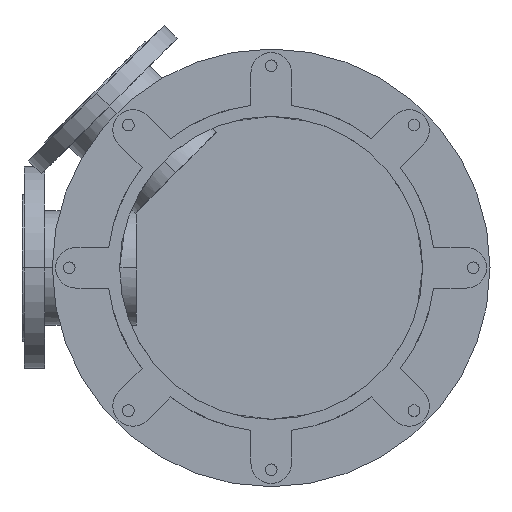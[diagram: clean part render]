
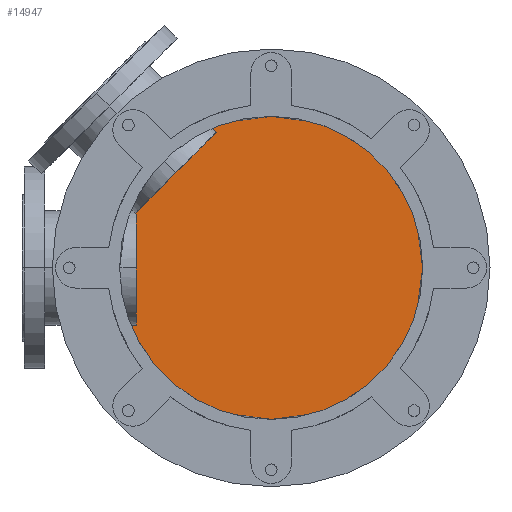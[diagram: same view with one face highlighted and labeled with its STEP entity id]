
A CAD part, front view. The second image highlights one B-rep face of the part: STEP entity #14947.
In plain terms, the highlighted planar face has unit normal (0, -1, 0).
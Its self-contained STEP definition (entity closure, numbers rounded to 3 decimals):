
#3898=CARTESIAN_POINT('',(0.,1172.,0.));
#3899=DIRECTION('',(0.,-1.,0.));
#3900=DIRECTION('',(0.,0.,1.));
#3901=AXIS2_PLACEMENT_3D('',#3898,#3899,#3900);
#4067=CARTESIAN_POINT('',(0.,1172.,0.));
#4068=DIRECTION('',(0.,-1.,0.));
#4069=DIRECTION('',(0.,0.,-1.));
#4070=AXIS2_PLACEMENT_3D('',#4067,#4068,#4069);
#9169=CARTESIAN_POINT('',(0.,1172.,240.));
#9170=CARTESIAN_POINT('',(0.,1172.,-240.));
#9171=VERTEX_POINT('',#9169);
#9172=VERTEX_POINT('',#9170);
#14937=CARTESIAN_POINT('',(0.,1172.,0.));
#14938=DIRECTION('',(0.,1.,0.));
#14939=DIRECTION('',(0.,0.,-1.));
#14940=AXIS2_PLACEMENT_3D('',#14937,#14938,#14939);
#14941=PLANE('',#14940);
#14942=ORIENTED_EDGE('',*,*,#14915,.F.);
#14944=ORIENTED_EDGE('',*,*,#14943,.F.);
#14945=EDGE_LOOP('',(#14942,#14944));
#14946=FACE_OUTER_BOUND('',#14945,.F.);
#14947=ADVANCED_FACE('',(#14946),#14941,.F.);
#3902=CIRCLE('',#3901,240.);
#4071=CIRCLE('',#4070,240.);
#14915=EDGE_CURVE('',#9171,#9172,#3902,.T.);
#14943=EDGE_CURVE('',#9172,#9171,#4071,.T.);
